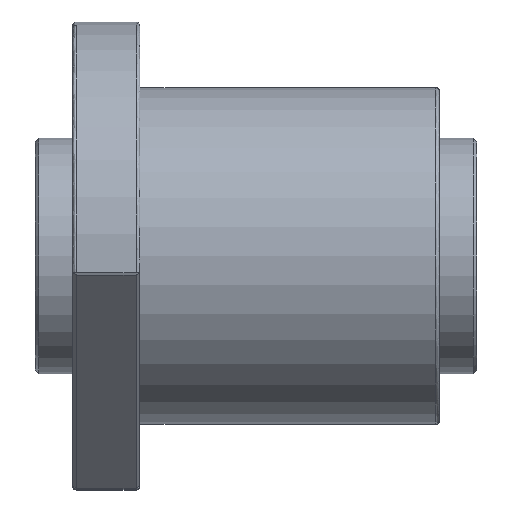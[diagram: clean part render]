
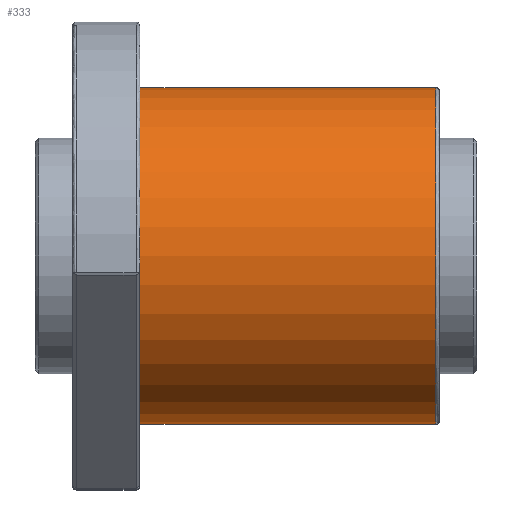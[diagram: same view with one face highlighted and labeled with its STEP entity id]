
A CAD part, front view. The second image highlights one B-rep face of the part: STEP entity #333.
In plain terms, the highlighted cylindrical face has radius 45 mm (diameter 90 mm), a partial arc.
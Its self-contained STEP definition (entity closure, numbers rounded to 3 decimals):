
#259 = CYLINDRICAL_SURFACE ( 'NONE', #5050, 45. ) ;
#286 = CARTESIAN_POINT ( 'NONE',  ( 98., 0., 45. ) ) ;
#333 = ADVANCED_FACE ( 'NONE', ( #3827 ), #259, .T. ) ;
#473 = DIRECTION ( 'NONE',  ( 0., 0., 1. ) ) ;
#587 = ORIENTED_EDGE ( 'NONE', *, *, #2915, .T. ) ;
#595 = EDGE_LOOP ( 'NONE', ( #3782, #587, #2465, #3875 ) ) ;
#832 = VERTEX_POINT ( 'NONE', #4211 ) ;
#1212 = CARTESIAN_POINT ( 'NONE',  ( 97., 0., -45. ) ) ;
#1217 = VECTOR ( 'NONE', #6170, 1000. ) ;
#1892 = CARTESIAN_POINT ( 'NONE',  ( 98., 0., 0. ) ) ;
#1897 = DIRECTION ( 'NONE',  ( -1., 0., 0. ) ) ;
#1943 = CARTESIAN_POINT ( 'NONE',  ( 18., 0., 0. ) ) ;
#2017 = DIRECTION ( 'NONE',  ( -1., 0., 0. ) ) ;
#2065 = VECTOR ( 'NONE', #2293, 1000. ) ;
#2224 = EDGE_CURVE ( 'NONE', #4661, #832, #4403, .T. ) ;
#2293 = DIRECTION ( 'NONE',  ( -1., 0., 0. ) ) ;
#2368 = DIRECTION ( 'NONE',  ( 1., 0., 0. ) ) ;
#2465 = ORIENTED_EDGE ( 'NONE', *, *, #3813, .T. ) ;
#2488 = LINE ( 'NONE', #286, #1217 ) ;
#2915 = EDGE_CURVE ( 'NONE', #4661, #4229, #3412, .T. ) ;
#3412 = CIRCLE ( 'NONE', #6269, 45. ) ;
#3726 = EDGE_CURVE ( 'NONE', #4069, #832, #5679, .T. ) ;
#3782 = ORIENTED_EDGE ( 'NONE', *, *, #2224, .F. ) ;
#3813 = EDGE_CURVE ( 'NONE', #4229, #4069, #2488, .T. ) ;
#3827 = FACE_OUTER_BOUND ( 'NONE', #595, .T. ) ;
#3875 = ORIENTED_EDGE ( 'NONE', *, *, #3726, .T. ) ;
#3923 = CARTESIAN_POINT ( 'NONE',  ( 18., 0., 45. ) ) ;
#3926 = DIRECTION ( 'NONE',  ( 0., 0., 1. ) ) ;
#4069 = VERTEX_POINT ( 'NONE', #3923 ) ;
#4157 = CARTESIAN_POINT ( 'NONE',  ( 97., 0., 45. ) ) ;
#4211 = CARTESIAN_POINT ( 'NONE',  ( 18., 0., -45. ) ) ;
#4229 = VERTEX_POINT ( 'NONE', #4157 ) ;
#4403 = LINE ( 'NONE', #5744, #2065 ) ;
#4661 = VERTEX_POINT ( 'NONE', #1212 ) ;
#4784 = CARTESIAN_POINT ( 'NONE',  ( 97., 0., 0. ) ) ;
#4895 = AXIS2_PLACEMENT_3D ( 'NONE', #1943, #2368, #473 ) ;
#5050 = AXIS2_PLACEMENT_3D ( 'NONE', #1892, #2017, #3926 ) ;
#5289 = DIRECTION ( 'NONE',  ( 0., 0., 1. ) ) ;
#5679 = CIRCLE ( 'NONE', #4895, 45. ) ;
#5744 = CARTESIAN_POINT ( 'NONE',  ( 98., 0., -45. ) ) ;
#6170 = DIRECTION ( 'NONE',  ( -1., 0., 0. ) ) ;
#6269 = AXIS2_PLACEMENT_3D ( 'NONE', #4784, #1897, #5289 ) ;
